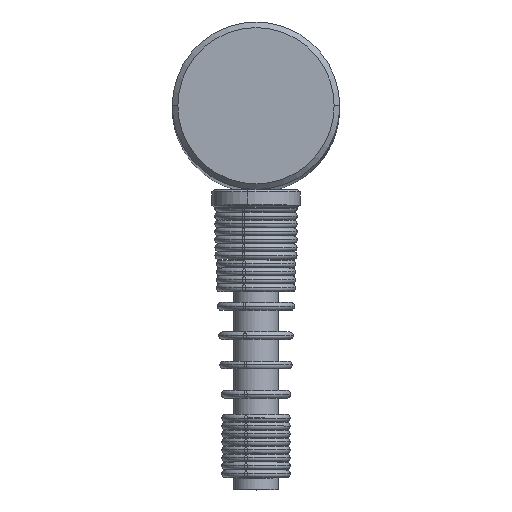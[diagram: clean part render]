
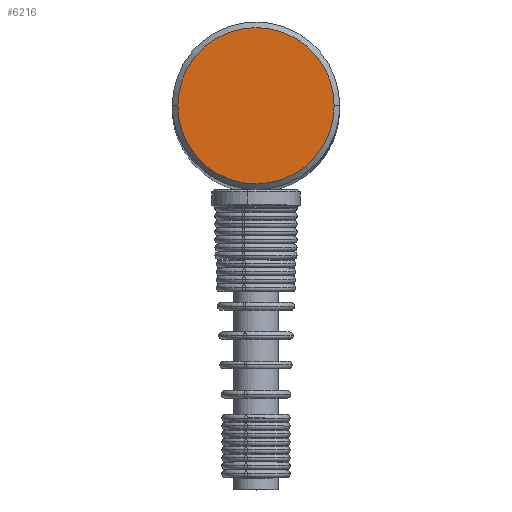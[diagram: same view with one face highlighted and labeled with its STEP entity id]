
A CAD part, top view. The second image highlights one B-rep face of the part: STEP entity #6216.
In plain terms, the highlighted planar face has unit normal (0, 0, 1).
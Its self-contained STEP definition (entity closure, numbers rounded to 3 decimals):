
#82 = VERTEX_POINT ( 'NONE', #2026 ) ;
#354 = EDGE_CURVE ( 'NONE', #1444, #82, #6313, .T. ) ;
#395 = CARTESIAN_POINT ( 'NONE',  ( -2.043, 0.964, 120.5 ) ) ;
#1051 = PLANE ( 'NONE',  #4415 ) ;
#1068 = EDGE_CURVE ( 'NONE', #82, #1444, #6768, .T. ) ;
#1240 = CARTESIAN_POINT ( 'NONE',  ( -9.043, 0.964, 120.5 ) ) ;
#1383 = DIRECTION ( 'NONE',  ( 0., 0., 1. ) ) ;
#1444 = VERTEX_POINT ( 'NONE', #1240 ) ;
#1535 = DIRECTION ( 'NONE',  ( 1., 0., 0. ) ) ;
#2026 = CARTESIAN_POINT ( 'NONE',  ( 4.957, 0.964, 120.5 ) ) ;
#3050 = ORIENTED_EDGE ( 'NONE', *, *, #1068, .T. ) ;
#3494 = EDGE_LOOP ( 'NONE', ( #3772, #3050 ) ) ;
#3772 = ORIENTED_EDGE ( 'NONE', *, *, #354, .T. ) ;
#3776 = AXIS2_PLACEMENT_3D ( 'NONE', #395, #1383, #1535 ) ;
#4346 = FACE_OUTER_BOUND ( 'NONE', #3494, .T. ) ;
#4415 = AXIS2_PLACEMENT_3D ( 'NONE', #7718, #7712, #7703 ) ;
#4621 = DIRECTION ( 'NONE',  ( 1., 0., 0. ) ) ;
#4648 = DIRECTION ( 'NONE',  ( 0., 0., 1. ) ) ;
#4676 = CARTESIAN_POINT ( 'NONE',  ( -2.043, 0.964, 120.5 ) ) ;
#5804 = AXIS2_PLACEMENT_3D ( 'NONE', #4676, #4648, #4621 ) ;
#6216 = ADVANCED_FACE ( 'NONE', ( #4346 ), #1051, .T. ) ;
#6313 = CIRCLE ( 'NONE', #5804, 7. ) ;
#6768 = CIRCLE ( 'NONE', #3776, 7. ) ;
#7703 = DIRECTION ( 'NONE',  ( 1., 0., 0. ) ) ;
#7712 = DIRECTION ( 'NONE',  ( 0., 0., 1. ) ) ;
#7718 = CARTESIAN_POINT ( 'NONE',  ( -2.043, 0.964, 120.5 ) ) ;
